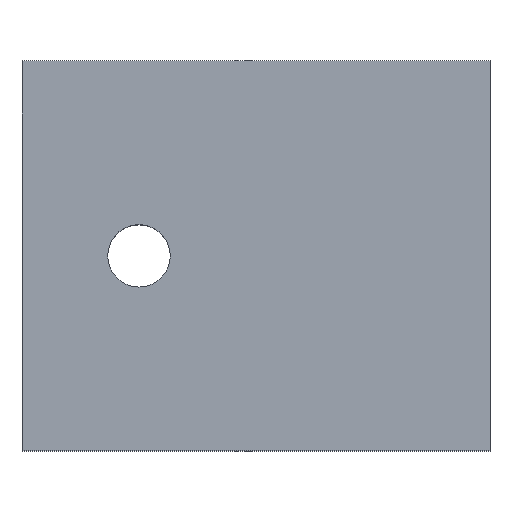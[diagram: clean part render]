
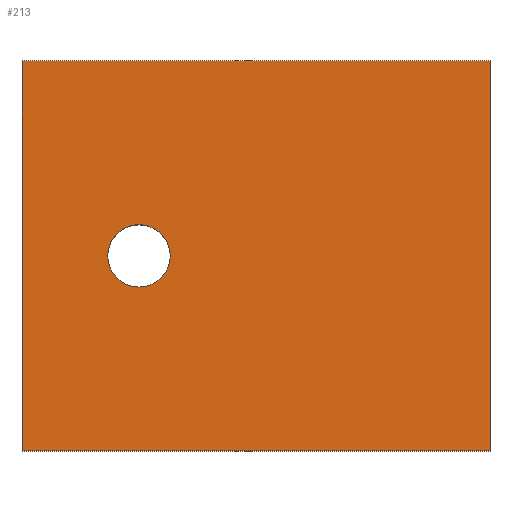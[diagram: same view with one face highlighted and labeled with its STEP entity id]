
A CAD part, top view. The second image highlights one B-rep face of the part: STEP entity #213.
In plain terms, the highlighted planar face has unit normal (0, 0, 1).
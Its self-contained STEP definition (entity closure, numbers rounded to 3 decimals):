
#24 = VERTEX_POINT('',#25);
#25 = CARTESIAN_POINT('',(0.,0.,4.));
#32 = PLANE('',#33);
#33 = AXIS2_PLACEMENT_3D('',#34,#35,#36);
#34 = CARTESIAN_POINT('',(0.,0.,0.));
#35 = DIRECTION('',(1.,0.,-0.));
#36 = DIRECTION('',(0.,0.,1.));
#44 = PLANE('',#45);
#45 = AXIS2_PLACEMENT_3D('',#46,#47,#48);
#46 = CARTESIAN_POINT('',(0.,0.,0.));
#47 = DIRECTION('',(-0.,1.,0.));
#48 = DIRECTION('',(0.,0.,1.));
#85 = VERTEX_POINT('',#86);
#86 = CARTESIAN_POINT('',(0.,10.,4.));
#100 = PLANE('',#101);
#101 = AXIS2_PLACEMENT_3D('',#102,#103,#104);
#102 = CARTESIAN_POINT('',(0.,10.,0.));
#103 = DIRECTION('',(-0.,1.,0.));
#104 = DIRECTION('',(0.,0.,1.));
#112 = EDGE_CURVE('',#24,#85,#113,.T.);
#113 = SURFACE_CURVE('',#114,(#118,#125),.PCURVE_S1.);
#114 = LINE('',#115,#116);
#115 = CARTESIAN_POINT('',(0.,0.,4.));
#116 = VECTOR('',#117,1.);
#117 = DIRECTION('',(-0.,1.,0.));
#118 = PCURVE('',#32,#119);
#119 = DEFINITIONAL_REPRESENTATION('',(#120),#124);
#120 = LINE('',#121,#122);
#121 = CARTESIAN_POINT('',(4.,0.));
#122 = VECTOR('',#123,1.);
#123 = DIRECTION('',(0.,-1.));
#124 = ( GEOMETRIC_REPRESENTATION_CONTEXT(2) 
PARAMETRIC_REPRESENTATION_CONTEXT() REPRESENTATION_CONTEXT('2D SPACE',''
  ) );
#125 = PCURVE('',#126,#131);
#126 = PLANE('',#127);
#127 = AXIS2_PLACEMENT_3D('',#128,#129,#130);
#128 = CARTESIAN_POINT('',(0.,0.,4.));
#129 = DIRECTION('',(0.,0.,1.));
#130 = DIRECTION('',(1.,0.,-0.));
#131 = DEFINITIONAL_REPRESENTATION('',(#132),#136);
#132 = LINE('',#133,#134);
#133 = CARTESIAN_POINT('',(0.,0.));
#134 = VECTOR('',#135,1.);
#135 = DIRECTION('',(0.,1.));
#136 = ( GEOMETRIC_REPRESENTATION_CONTEXT(2) 
PARAMETRIC_REPRESENTATION_CONTEXT() REPRESENTATION_CONTEXT('2D SPACE',''
  ) );
#165 = EDGE_CURVE('',#24,#166,#168,.T.);
#166 = VERTEX_POINT('',#167);
#167 = CARTESIAN_POINT('',(12.,0.,4.));
#168 = SURFACE_CURVE('',#169,(#173,#180),.PCURVE_S1.);
#169 = LINE('',#170,#171);
#170 = CARTESIAN_POINT('',(0.,0.,4.));
#171 = VECTOR('',#172,1.);
#172 = DIRECTION('',(1.,0.,-0.));
#173 = PCURVE('',#44,#174);
#174 = DEFINITIONAL_REPRESENTATION('',(#175),#179);
#175 = LINE('',#176,#177);
#176 = CARTESIAN_POINT('',(4.,0.));
#177 = VECTOR('',#178,1.);
#178 = DIRECTION('',(0.,1.));
#179 = ( GEOMETRIC_REPRESENTATION_CONTEXT(2) 
PARAMETRIC_REPRESENTATION_CONTEXT() REPRESENTATION_CONTEXT('2D SPACE',''
  ) );
#180 = PCURVE('',#126,#181);
#181 = DEFINITIONAL_REPRESENTATION('',(#182),#186);
#182 = LINE('',#183,#184);
#183 = CARTESIAN_POINT('',(0.,0.));
#184 = VECTOR('',#185,1.);
#185 = DIRECTION('',(1.,0.));
#186 = ( GEOMETRIC_REPRESENTATION_CONTEXT(2) 
PARAMETRIC_REPRESENTATION_CONTEXT() REPRESENTATION_CONTEXT('2D SPACE',''
  ) );
#202 = PLANE('',#203);
#203 = AXIS2_PLACEMENT_3D('',#204,#205,#206);
#204 = CARTESIAN_POINT('',(12.,0.,0.));
#205 = DIRECTION('',(1.,0.,-0.));
#206 = DIRECTION('',(0.,0.,1.));
#213 = ADVANCED_FACE('',(#214,#262),#126,.T.);
#214 = FACE_BOUND('',#215,.T.);
#215 = EDGE_LOOP('',(#216,#217,#218,#241));
#216 = ORIENTED_EDGE('',*,*,#112,.F.);
#217 = ORIENTED_EDGE('',*,*,#165,.T.);
#218 = ORIENTED_EDGE('',*,*,#219,.T.);
#219 = EDGE_CURVE('',#166,#220,#222,.T.);
#220 = VERTEX_POINT('',#221);
#221 = CARTESIAN_POINT('',(12.,10.,4.));
#222 = SURFACE_CURVE('',#223,(#227,#234),.PCURVE_S1.);
#223 = LINE('',#224,#225);
#224 = CARTESIAN_POINT('',(12.,0.,4.));
#225 = VECTOR('',#226,1.);
#226 = DIRECTION('',(-0.,1.,0.));
#227 = PCURVE('',#126,#228);
#228 = DEFINITIONAL_REPRESENTATION('',(#229),#233);
#229 = LINE('',#230,#231);
#230 = CARTESIAN_POINT('',(12.,0.));
#231 = VECTOR('',#232,1.);
#232 = DIRECTION('',(0.,1.));
#233 = ( GEOMETRIC_REPRESENTATION_CONTEXT(2) 
PARAMETRIC_REPRESENTATION_CONTEXT() REPRESENTATION_CONTEXT('2D SPACE',''
  ) );
#234 = PCURVE('',#202,#235);
#235 = DEFINITIONAL_REPRESENTATION('',(#236),#240);
#236 = LINE('',#237,#238);
#237 = CARTESIAN_POINT('',(4.,0.));
#238 = VECTOR('',#239,1.);
#239 = DIRECTION('',(0.,-1.));
#240 = ( GEOMETRIC_REPRESENTATION_CONTEXT(2) 
PARAMETRIC_REPRESENTATION_CONTEXT() REPRESENTATION_CONTEXT('2D SPACE',''
  ) );
#241 = ORIENTED_EDGE('',*,*,#242,.F.);
#242 = EDGE_CURVE('',#85,#220,#243,.T.);
#243 = SURFACE_CURVE('',#244,(#248,#255),.PCURVE_S1.);
#244 = LINE('',#245,#246);
#245 = CARTESIAN_POINT('',(0.,10.,4.));
#246 = VECTOR('',#247,1.);
#247 = DIRECTION('',(1.,0.,-0.));
#248 = PCURVE('',#126,#249);
#249 = DEFINITIONAL_REPRESENTATION('',(#250),#254);
#250 = LINE('',#251,#252);
#251 = CARTESIAN_POINT('',(0.,10.));
#252 = VECTOR('',#253,1.);
#253 = DIRECTION('',(1.,0.));
#254 = ( GEOMETRIC_REPRESENTATION_CONTEXT(2) 
PARAMETRIC_REPRESENTATION_CONTEXT() REPRESENTATION_CONTEXT('2D SPACE',''
  ) );
#255 = PCURVE('',#100,#256);
#256 = DEFINITIONAL_REPRESENTATION('',(#257),#261);
#257 = LINE('',#258,#259);
#258 = CARTESIAN_POINT('',(4.,0.));
#259 = VECTOR('',#260,1.);
#260 = DIRECTION('',(0.,1.));
#261 = ( GEOMETRIC_REPRESENTATION_CONTEXT(2) 
PARAMETRIC_REPRESENTATION_CONTEXT() REPRESENTATION_CONTEXT('2D SPACE',''
  ) );
#262 = FACE_BOUND('',#263,.T.);
#263 = EDGE_LOOP('',(#264));
#264 = ORIENTED_EDGE('',*,*,#265,.F.);
#265 = EDGE_CURVE('',#266,#266,#268,.T.);
#266 = VERTEX_POINT('',#267);
#267 = CARTESIAN_POINT('',(3.8,5.,4.));
#268 = SURFACE_CURVE('',#269,(#274,#281),.PCURVE_S1.);
#269 = CIRCLE('',#270,0.8);
#270 = AXIS2_PLACEMENT_3D('',#271,#272,#273);
#271 = CARTESIAN_POINT('',(3.,5.,4.));
#272 = DIRECTION('',(0.,0.,1.));
#273 = DIRECTION('',(1.,0.,-0.));
#274 = PCURVE('',#126,#275);
#275 = DEFINITIONAL_REPRESENTATION('',(#276),#280);
#276 = CIRCLE('',#277,0.8);
#277 = AXIS2_PLACEMENT_2D('',#278,#279);
#278 = CARTESIAN_POINT('',(3.,5.));
#279 = DIRECTION('',(1.,0.));
#280 = ( GEOMETRIC_REPRESENTATION_CONTEXT(2) 
PARAMETRIC_REPRESENTATION_CONTEXT() REPRESENTATION_CONTEXT('2D SPACE',''
  ) );
#281 = PCURVE('',#282,#287);
#282 = CYLINDRICAL_SURFACE('',#283,0.8);
#283 = AXIS2_PLACEMENT_3D('',#284,#285,#286);
#284 = CARTESIAN_POINT('',(3.,5.,-2.));
#285 = DIRECTION('',(0.,0.,1.));
#286 = DIRECTION('',(1.,0.,-0.));
#287 = DEFINITIONAL_REPRESENTATION('',(#288),#292);
#288 = LINE('',#289,#290);
#289 = CARTESIAN_POINT('',(0.,6.));
#290 = VECTOR('',#291,1.);
#291 = DIRECTION('',(1.,0.));
#292 = ( GEOMETRIC_REPRESENTATION_CONTEXT(2) 
PARAMETRIC_REPRESENTATION_CONTEXT() REPRESENTATION_CONTEXT('2D SPACE',''
  ) );
